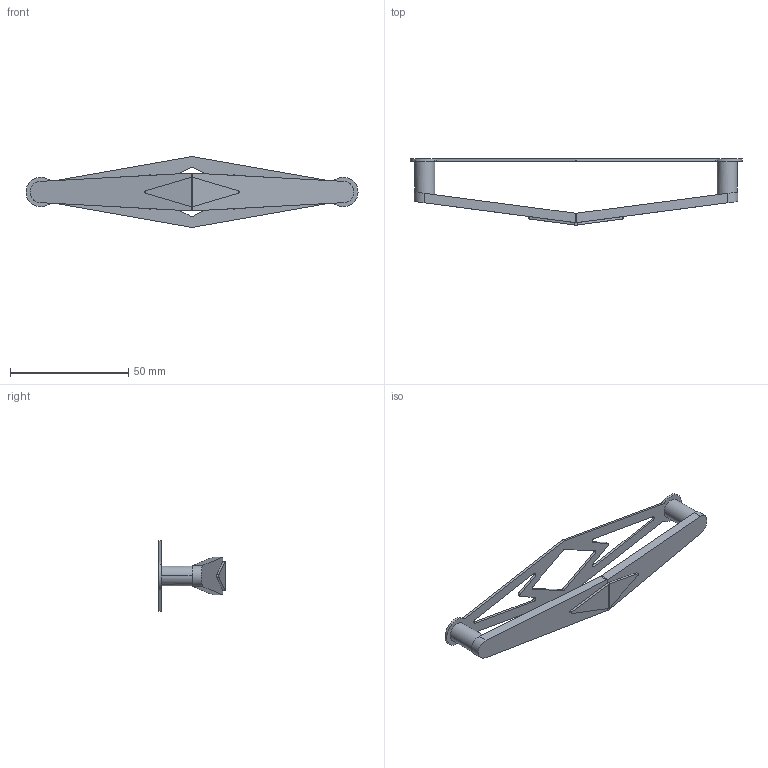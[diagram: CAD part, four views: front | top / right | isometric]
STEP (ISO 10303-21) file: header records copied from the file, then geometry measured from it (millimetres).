
FILE_DESCRIPTION( ( '' ), '1' );
FILE_NAME( 'D:/1.AUTOCAD EXPORT/Group 10/sheet_10_1/115374.stp', '2013-10-18T05:40:49', ( '' ), ( '' ), ' ', ' ', ' ' );
FILE_SCHEMA( ( 'automotive_design' ) );
Length unit declared in the file: millimetre
Products named in the file (1): 1
Bounding box: 140.5 x 28 x 29.99 mm (x, y, z)
Volume: 9872.8 mm3; surface area: 9142 mm2
Topology: 1 solids, 1 shells, 84 faces, 234 edges, 156 vertices
Faces by surface type: cylinder 46, plane 38
Entity records: 5408 total; most frequent: DIRECTION 496, CARTESIAN_POINT 495, STYLED_ITEM 475, PRESENTATION_STYLE_ASSIGNMENT 475, COLOUR_RGB 475, ORIENTED_EDGE 468, EDGE_CURVE 234, CURVE_STYLE 234
